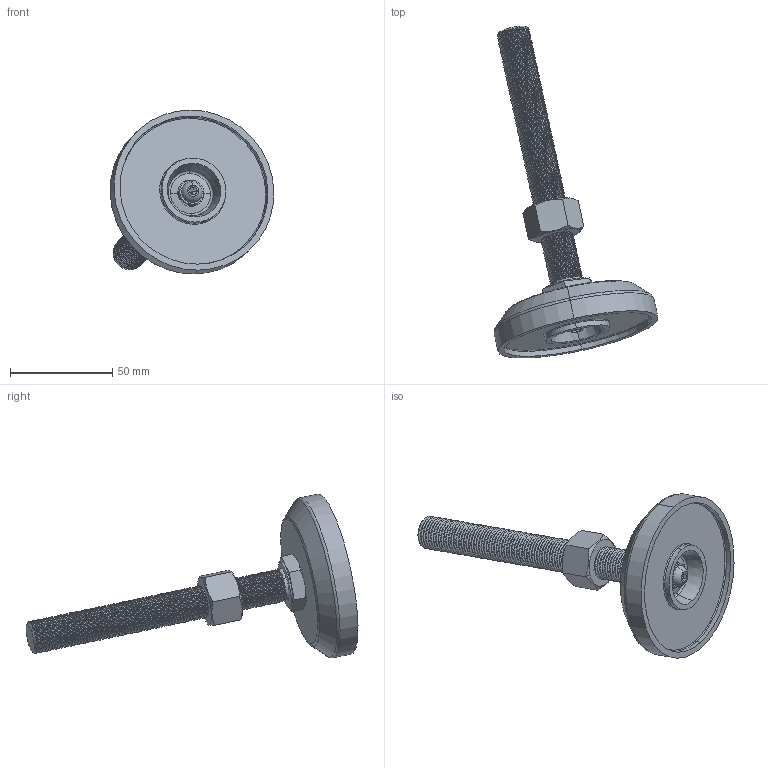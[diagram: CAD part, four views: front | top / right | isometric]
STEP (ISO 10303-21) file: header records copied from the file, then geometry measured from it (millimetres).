
FILE_DESCRIPTION (( 'STEP AP203' ), '1' );
FILE_NAME ('5.24.80.16.160.SS.STEP', '2014-05-20T06:19:19', ( 'USER' ), ( 'Microsoft' ), 'SwSTEP 2.0', 'SolidWorks 2012', '' );
FILE_SCHEMA (( 'CONFIG_CONTROL_DESIGN' ));
Length unit declared in the file: millimetre
Products named in the file (7): 5.24.80.16.160.SS; 80金属微调支脚脚垫; Plain washers--Product grade C GB_GB_FASTENER_WASHER_SMWC 6; Hexagon socket button head screws GB_GB_SOCKET_TYPE7 M6X20-N; Hexagon nuts grade C GB_GB_FASTENER_NUT_SNC1 M16-N; 130mm-M16支金属微调脚螺杆; M6蹟隊踢扽杶
Assembly tree (6 placements, depth 2):
  5.24.80.16.160.SS
    M6蹟隊踢扽杶
    130mm-M16支金属微调脚螺杆
    Hexagon nuts grade C GB_GB_FASTENER_NUT_SNC1 M16-N
    Hexagon socket button head screws GB_GB_SOCKET_TYPE7 M6X20-N
    Plain washers--Product grade C GB_GB_FASTENER_WASHER_SMWC 6
    80金属微调支脚脚垫
Bounding box: 80.12 x 162.46 x 80.25 mm (x, y, z)
Volume: 100941.2 mm3; surface area: 30799.4 mm2
Topology: 6 solids, 6 shells, 951 faces, 1918 edges, 984 vertices
Faces by surface type: torus 354, cone 354, cylinder 194, plane 41, sphere 8
Entity records: 25209 total; most frequent: DIRECTION 5138, CARTESIAN_POINT 3992, ORIENTED_EDGE 3832, AXIS2_PLACEMENT_3D 2274, EDGE_CURVE 1916, CIRCLE 1314, VERTEX_POINT 984, EDGE_LOOP 966
